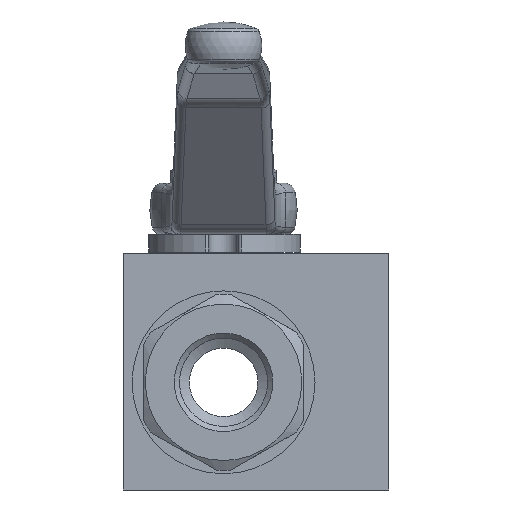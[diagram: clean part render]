
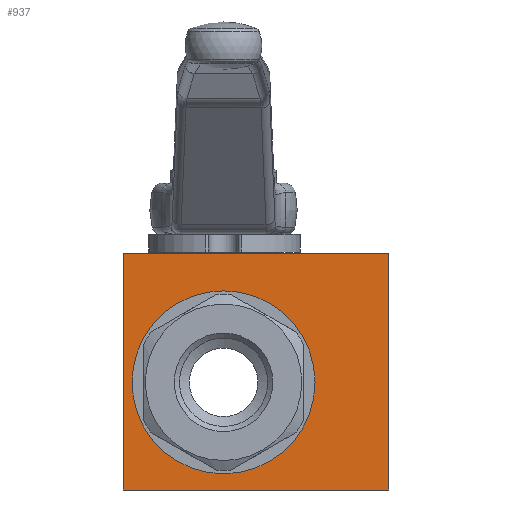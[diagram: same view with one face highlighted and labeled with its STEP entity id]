
A CAD part, front view. The second image highlights one B-rep face of the part: STEP entity #937.
In plain terms, the highlighted planar face has unit normal (0, -1, 0).
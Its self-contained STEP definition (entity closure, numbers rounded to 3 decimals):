
#937 = ADVANCED_FACE( '', ( #1853, #1854 ), #1855, .T. );
#1853 = FACE_OUTER_BOUND( '', #3729, .T. );
#1854 = FACE_BOUND( '', #3730, .T. );
#1855 = PLANE( '', #3731 );
#3729 = EDGE_LOOP( '', ( #5912, #5913, #5914, #5915 ) );
#3730 = EDGE_LOOP( '', ( #5916 ) );
#3731 = AXIS2_PLACEMENT_3D( '', #5917, #5918, #5919 );
#5912 = ORIENTED_EDGE( '', *, *, #7375, .T. );
#5913 = ORIENTED_EDGE( '', *, *, #7172, .T. );
#5914 = ORIENTED_EDGE( '', *, *, #6645, .T. );
#5915 = ORIENTED_EDGE( '', *, *, #7378, .T. );
#5916 = ORIENTED_EDGE( '', *, *, #7248, .T. );
#5917 = CARTESIAN_POINT( '', ( -17., -22.5, -18.25 ) );
#5918 = DIRECTION( '', ( 0., -1., 0. ) );
#5919 = DIRECTION( '', ( 0., 0., -1. ) );
#6645 = EDGE_CURVE( '', #7843, #7841, #7844, .T. );
#7172 = EDGE_CURVE( '', #8646, #7843, #8647, .T. );
#7248 = EDGE_CURVE( '', #8748, #8748, #8749, .T. );
#7375 = EDGE_CURVE( '', #8900, #8646, #8901, .T. );
#7378 = EDGE_CURVE( '', #7841, #8900, #8904, .T. );
#7841 = VERTEX_POINT( '', #9506 );
#7843 = VERTEX_POINT( '', #9509 );
#7844 = LINE( '', #9510, #9511 );
#8646 = VERTEX_POINT( '', #11358 );
#8647 = LINE( '', #11359, #11360 );
#8748 = VERTEX_POINT( '', #11644 );
#8749 = CIRCLE( '', #11645, 15.5 );
#8900 = VERTEX_POINT( '', #12090 );
#8901 = LINE( '', #12091, #12092 );
#8904 = LINE( '', #12096, #12097 );
#9506 = CARTESIAN_POINT( '', ( 28., -22.5, 21.75 ) );
#9509 = CARTESIAN_POINT( '', ( 28., -22.5, -18.25 ) );
#9510 = CARTESIAN_POINT( '', ( 28., -22.5, -18.25 ) );
#9511 = VECTOR( '', #12492, 1000. );
#11358 = CARTESIAN_POINT( '', ( -17., -22.5, -18.25 ) );
#11359 = CARTESIAN_POINT( '', ( -17., -22.5, -18.25 ) );
#11360 = VECTOR( '', #13174, 1000. );
#11644 = CARTESIAN_POINT( '', ( 15.5, -22.5, 0. ) );
#11645 = AXIS2_PLACEMENT_3D( '', #13251, #13252, #13253 );
#12090 = CARTESIAN_POINT( '', ( -17., -22.5, 21.75 ) );
#12091 = CARTESIAN_POINT( '', ( -17., -22.5, 21.75 ) );
#12092 = VECTOR( '', #13354, 1000. );
#12096 = CARTESIAN_POINT( '', ( 28., -22.5, 21.75 ) );
#12097 = VECTOR( '', #13356, 1000. );
#12492 = DIRECTION( '', ( 0., 0., 1. ) );
#13174 = DIRECTION( '', ( 1., 0., 0. ) );
#13251 = CARTESIAN_POINT( '', ( 0., -22.5, 0. ) );
#13252 = DIRECTION( '', ( 0., 1., 0. ) );
#13253 = DIRECTION( '', ( 1., 0., 0. ) );
#13354 = DIRECTION( '', ( 0., 0., -1. ) );
#13356 = DIRECTION( '', ( -1., 0., 0. ) );
